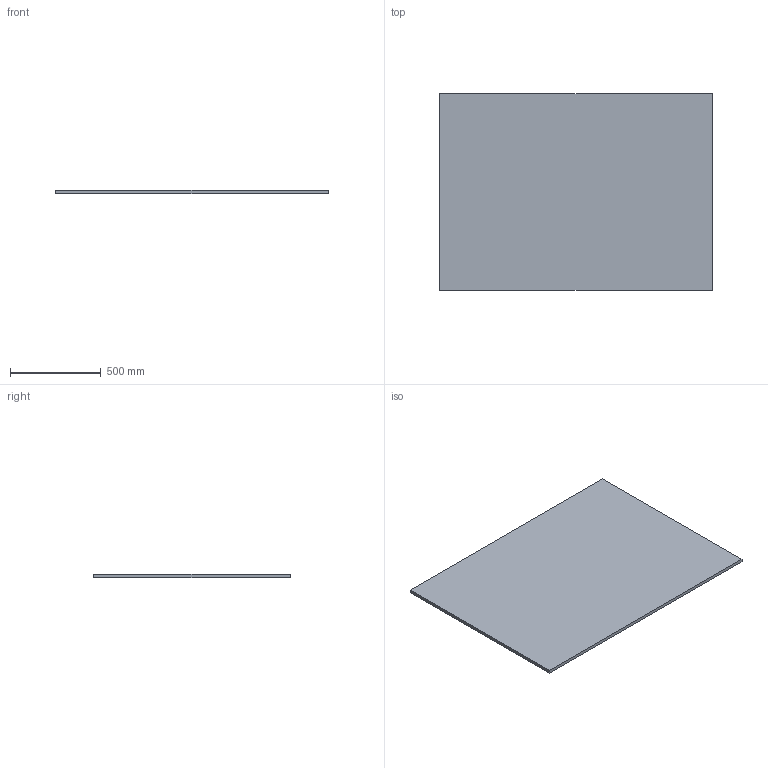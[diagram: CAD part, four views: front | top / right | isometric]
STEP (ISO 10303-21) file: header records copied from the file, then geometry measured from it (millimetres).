
FILE_DESCRIPTION (( 'STEP AP214' ), '1' );
FILE_NAME ('PSCHU0014.STEP', '2025-01-23T10:30:23', ( '' ), ( '' ), 'SwSTEP 2.0', 'SolidWorks 2022', '' );
FILE_SCHEMA (( 'AUTOMOTIVE_DESIGN' ));
Length unit declared in the file: millimetre
Products named in the file (1): PSCHU0014
Bounding box: 1505 x 1087.5 x 18 mm (x, y, z)
Volume: 29460375 mm3; surface area: 3366705 mm2
Topology: 1 solids, 1 shells, 6 faces, 12 edges, 8 vertices
Faces by surface type: plane 6
Entity records: 190 total; most frequent: CARTESIAN_POINT 27, DIRECTION 26, ORIENTED_EDGE 24, EDGE_CURVE 12, LINE 12, VECTOR 12, VERTEX_POINT 8, AXIS2_PLACEMENT_3D 7
